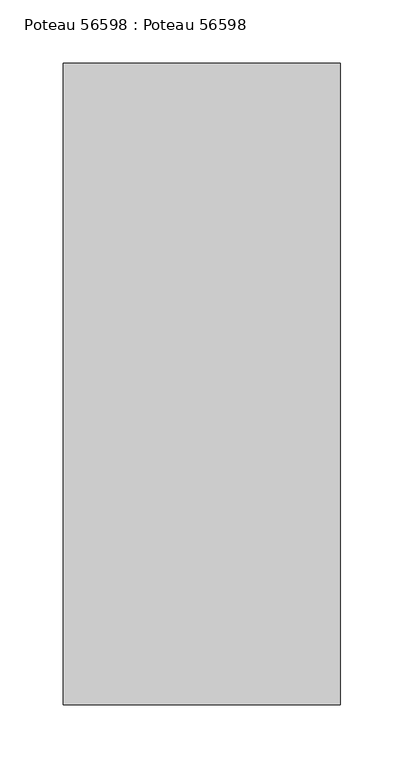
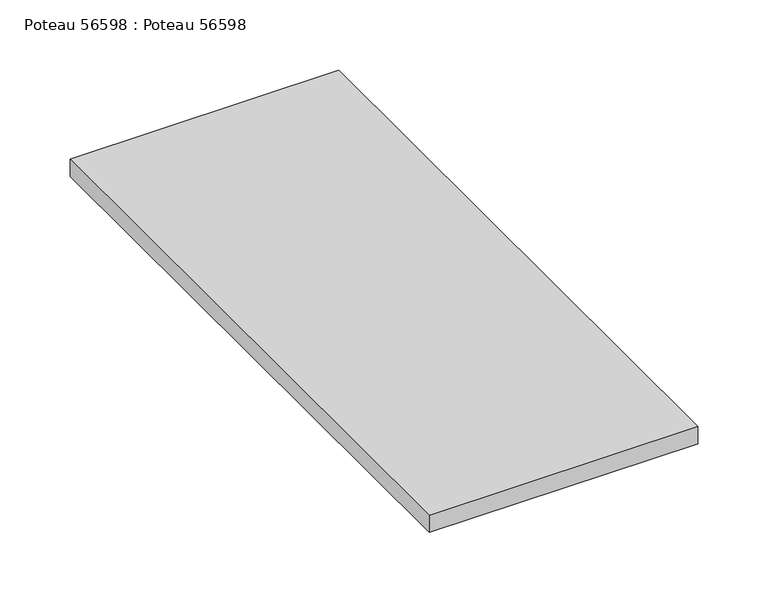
"""IFC4 building model written with IfcOpenShell, lengths in millimetres: beam geometry, Poteau 56598 : Poteau 56598."""

from ifc_helpers import new_model, si_unit, frame, origin, place, context, project, spatial, polyline, outline, extrude, source, transform, mapped, element, save


def poteau_56598_poteau_56598_82d68d1c(model_context):
    return source(origin(), model_context, "Body", "SweptSolid", [
        extrude(outline(polyline([(109.9999999, -29095.0), (109.9999999, -29604.0), (-110.0000001, -29604.0), (-110.0000001, -29095.0), (109.9999999, -29095.0)])), frame((0.0, 0.0, 8015.14), z_axis=(0.0, 0.0, 1.0), x_axis=(1.0, 0.0, 0.0)), (0.0, 0.0, 1.0), 15.0),
    ])


if __name__ == "__main__":
    model = new_model("IFC4")
    model_context = context("Model", 3, world=origin())
    ifc_project = project(units=[si_unit("LENGTHUNIT", "METRE", prefix="MILLI")], contexts=[model_context])
    site = spatial("IfcSite", under=ifc_project)
    building = spatial("IfcBuilding", under=site)
    placement = place(None, origin())
    poteau_56598_poteau_56598_shape = poteau_56598_poteau_56598_82d68d1c(model_context)
    element("IfcBeam", 1, ObjectType="Poteau 56598 : Poteau 56598", at=placement, inside=building, context=model_context, shape_type="MappedRepresentation", body=[
        mapped(poteau_56598_poteau_56598_shape, transform((0.0, 0.0, 0.0), x_axis=(1.0, 0.0, 0.0), y_axis=(0.0, 1.0, 0.0), z_axis=(0.0, 0.0, 1.0))),
    ])
    save(model, "model.ifc")
